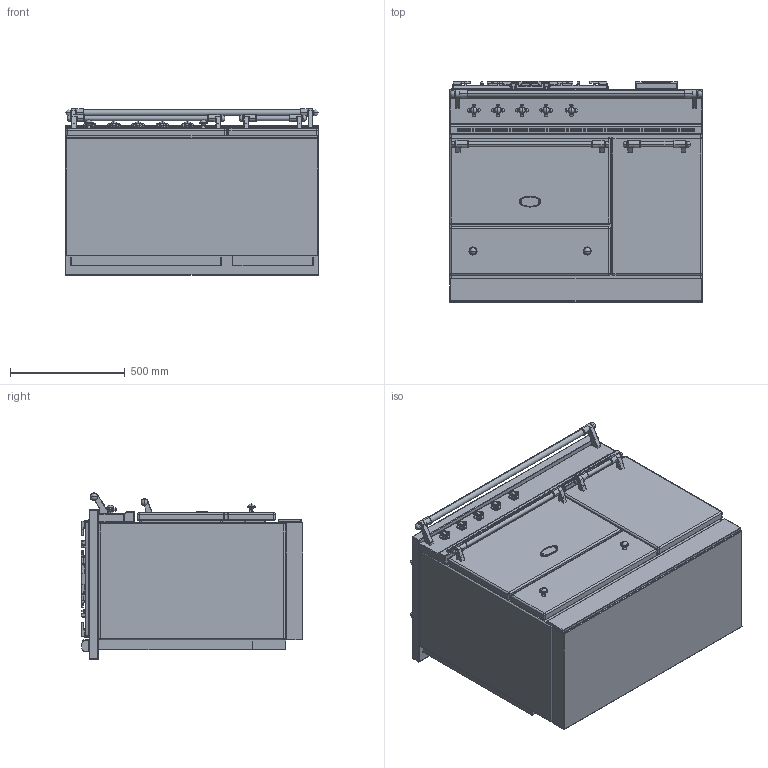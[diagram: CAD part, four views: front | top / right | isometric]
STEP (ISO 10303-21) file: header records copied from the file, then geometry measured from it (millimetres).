
FILE_DESCRIPTION((''),'2;1');
FILE_NAME('LG1141_CHAMBERTIN_ASM','2021-12-02T08:53:10',('r.avril'),(''),'CREO PARAMETRIC BY PTC INC, 2017260','CREO PARAMETRIC BY PTC INC, 2017260','');
FILE_SCHEMA(('AP203_CONFIGURATION_CONTROLLED_3D_DESIGN_OF_MECHANICAL_PARTS_AND_ASSEMBLIES_MIM_LF { 1 0 10303 403 2 1 2 }'));
Products named in the file (26): BASE_EXPORT_CHAMBERTIN_LG1141; 65650003; 65650004; 6531940; 6531941; 6531943; 65049009; 65650001; 6538399; 1931942; 65080022_AF0; 6531942_ASM; BASE_EXPORT_CHAMBERTIN_LG1141_ASM; TABLE_1105D_CLASSIQUE_4_FEUX; 3KW; 1_5KW; 4KW; 6537023; 65149005; 90000565_ASM; 6537026; 90000566_ASM; CHEMINEE_2020_LG182_EXPORT_STEP; CHEMINEE_2020_LG371_EXPORT_STEP; TABLE_1105D_CLASSIQUE_4_FEUX_ASM; LG1141_CHAMBERTIN_ASM
Assembly tree (41 placements, depth 4):
  LG1141_CHAMBERTIN_ASM
    BASE_EXPORT_CHAMBERTIN_LG1141_ASM
      BASE_EXPORT_CHAMBERTIN_LG1141
      65650003
      65650004
      6531940  x2
      6531941  x2
      6531943  x2
      65049009
      65650001
      6531942_ASM  x5
        6538399
        1931942
        65080022_AF0
    TABLE_1105D_CLASSIQUE_4_FEUX_ASM
      TABLE_1105D_CLASSIQUE_4_FEUX
      3KW  x2
      1_5KW
      4KW
      90000565_ASM  x2
        6537023
        65149005
      90000566_ASM
        6537026
        65149005  x4
      CHEMINEE_2020_LG182_EXPORT_STEP
      CHEMINEE_2020_LG371_EXPORT_STEP
Bounding box: 1105 x 965 x 724 mm (x, y, z)
Volume: 400797637.6 mm3; surface area: 10356965.8 mm2
Topology: 55 solids, 63 shells, 6365 faces, 16050 edges, 9769 vertices
Faces by surface type: plane 2392, cylinder 2010, bspline 1039, cone 298, torus 230, sphere 202, extrusion 182, revolution 12
Entity records: 170911 total; most frequent: CARTESIAN_POINT 56323, ORIENTED_EDGE 19628, DIRECTION 17697, EDGE_CURVE 9824, AXIS2_PLACEMENT_3D 6119, VERTEX_POINT 6027, VECTOR 5378, PRESENTATION_STYLE_ASSIGNMENT 5352
